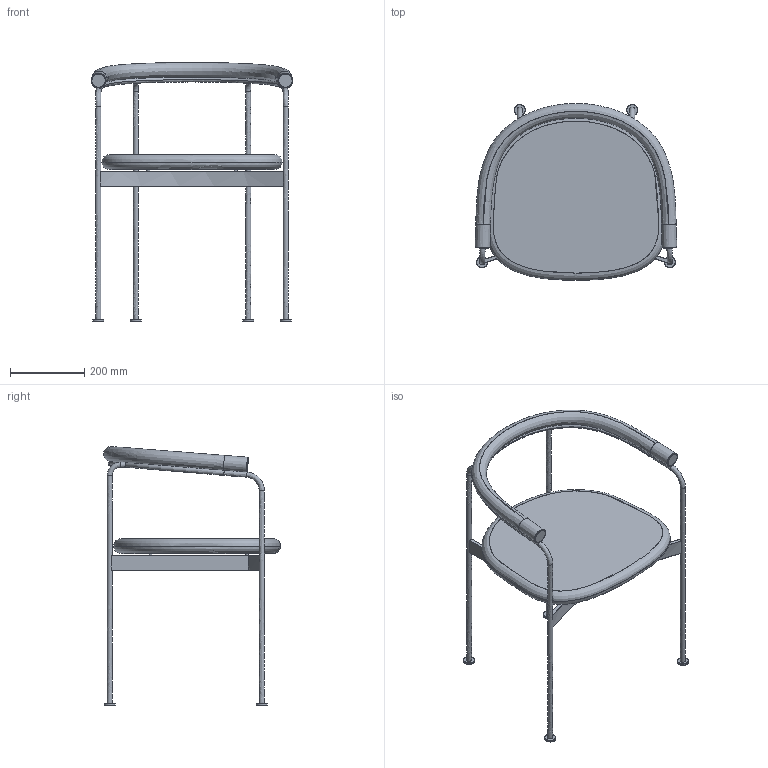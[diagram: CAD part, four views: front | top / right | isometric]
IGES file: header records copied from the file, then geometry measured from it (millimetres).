
Global section: file name: /Users/geocarignani/Documents/Kensaku Oshiro/DK3 UPDATE/INVIATI/2021.11.15 BAIA CHAIR - BACKREST CURVATURE ADJUSTMENT.igs; preprocessor: Trout Lake IGES 012 Mar  6 2017; date: 211115.121709; units: millimetre
Bounding box: 544.19 x 477.06 x 698.54 mm (x, y, z)
Surface area: 866731.5 mm2 (no closed solid volume)
Topology: 0 solids, 0 shells, 103 faces, 1182 edges, 1144 vertices
Faces by surface type: bspline 103
